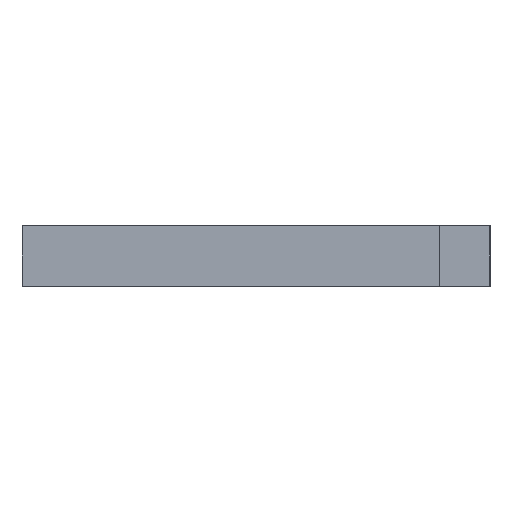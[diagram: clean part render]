
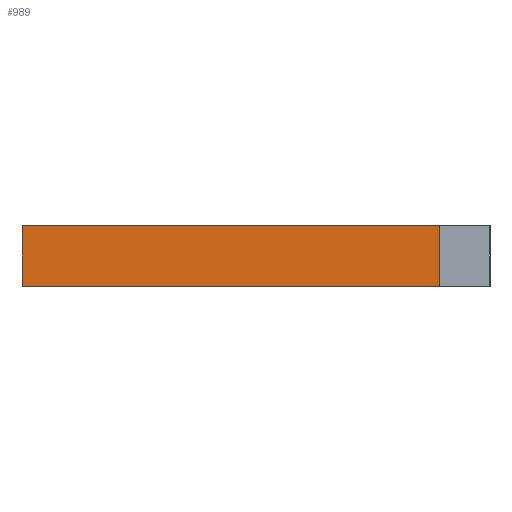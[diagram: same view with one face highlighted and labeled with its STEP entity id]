
A CAD part, left-side view. The second image highlights one B-rep face of the part: STEP entity #989.
In plain terms, the highlighted planar face has unit normal (-1, 0, 0).
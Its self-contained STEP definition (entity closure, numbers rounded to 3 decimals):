
#70=PLANE('',#1100);
#117=FACE_OUTER_BOUND('',#174,.T.);
#174=EDGE_LOOP('',(#830,#831,#832,#833));
#283=LINE('',#1641,#368);
#284=LINE('',#1644,#369);
#285=LINE('',#1646,#370);
#286=LINE('',#1647,#371);
#368=VECTOR('',#1367,10.);
#369=VECTOR('',#1370,10.);
#370=VECTOR('',#1371,10.);
#371=VECTOR('',#1372,10.);
#511=VERTEX_POINT('',#1637);
#512=VERTEX_POINT('',#1639);
#513=VERTEX_POINT('',#1643);
#514=VERTEX_POINT('',#1645);
#643=EDGE_CURVE('',#511,#512,#283,.T.);
#644=EDGE_CURVE('',#513,#511,#284,.T.);
#645=EDGE_CURVE('',#514,#512,#285,.T.);
#646=EDGE_CURVE('',#513,#514,#286,.T.);
#830=ORIENTED_EDGE('',*,*,#644,.T.);
#831=ORIENTED_EDGE('',*,*,#643,.T.);
#832=ORIENTED_EDGE('',*,*,#645,.F.);
#833=ORIENTED_EDGE('',*,*,#646,.F.);
#989=ADVANCED_FACE('',(#117),#70,.T.);
#1100=AXIS2_PLACEMENT_3D('',#1642,#1368,#1369);
#1367=DIRECTION('',(0.,0.,1.));
#1368=DIRECTION('center_axis',(-1.,0.,0.));
#1369=DIRECTION('ref_axis',(0.,-1.,0.));
#1370=DIRECTION('',(0.,-1.,0.));
#1371=DIRECTION('',(0.,-1.,0.));
#1372=DIRECTION('',(0.,0.,1.));
#1637=CARTESIAN_POINT('',(8.,4.829,0.));
#1639=CARTESIAN_POINT('',(8.,4.829,6.));
#1641=CARTESIAN_POINT('',(8.,4.829,0.));
#1642=CARTESIAN_POINT('Origin',(8.,46.5,0.));
#1643=CARTESIAN_POINT('',(8.,46.5,0.));
#1644=CARTESIAN_POINT('',(8.,46.5,0.));
#1645=CARTESIAN_POINT('',(8.,46.5,6.));
#1646=CARTESIAN_POINT('',(8.,46.5,6.));
#1647=CARTESIAN_POINT('',(8.,46.5,0.));
